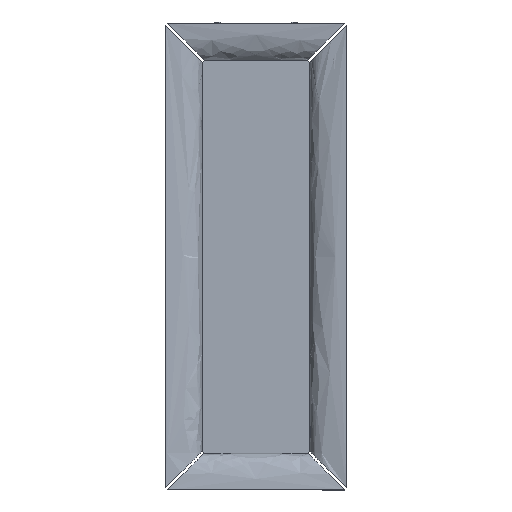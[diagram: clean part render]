
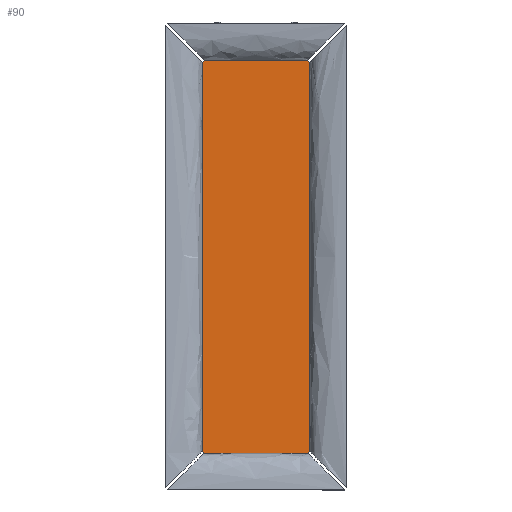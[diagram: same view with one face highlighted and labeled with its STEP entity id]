
A CAD part, top view. The second image highlights one B-rep face of the part: STEP entity #90.
In plain terms, the highlighted planar face has unit normal (0, 0, 1).
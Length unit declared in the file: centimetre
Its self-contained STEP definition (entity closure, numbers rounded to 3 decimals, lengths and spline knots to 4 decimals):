
#90=ADVANCED_FACE($,(#192),#1278,.T.);
#192=FACE_OUTER_BOUND($,#294,.T.);
#294=EDGE_LOOP($,(#572,#573,#574,#575,#576,#577,#578,#579));
#572=ORIENTED_EDGE($,*,*,#922,.T.);
#573=ORIENTED_EDGE($,*,*,#936,.T.);
#574=ORIENTED_EDGE($,*,*,#935,.T.);
#575=ORIENTED_EDGE($,*,*,#934,.T.);
#576=ORIENTED_EDGE($,*,*,#933,.T.);
#577=ORIENTED_EDGE($,*,*,#932,.T.);
#578=ORIENTED_EDGE($,*,*,#931,.T.);
#579=ORIENTED_EDGE($,*,*,#930,.T.);
#922=EDGE_CURVE($,#1119,#1133,#1408,.T.);
#930=EDGE_CURVE($,#1127,#1119,#1416,.T.);
#931=EDGE_CURVE($,#1128,#1127,#1417,.T.);
#932=EDGE_CURVE($,#1129,#1128,#1418,.T.);
#933=EDGE_CURVE($,#1130,#1129,#1419,.T.);
#934=EDGE_CURVE($,#1131,#1130,#1420,.T.);
#935=EDGE_CURVE($,#1132,#1131,#1421,.T.);
#936=EDGE_CURVE($,#1133,#1132,#1422,.T.);
#1119=VERTEX_POINT($,#3685);
#1127=VERTEX_POINT($,#3693);
#1128=VERTEX_POINT($,#3694);
#1129=VERTEX_POINT($,#3695);
#1130=VERTEX_POINT($,#3696);
#1131=VERTEX_POINT($,#3697);
#1132=VERTEX_POINT($,#3698);
#1133=VERTEX_POINT($,#3699);
#1278=PLANE($,#1650);
#1408=B_SPLINE_CURVE_WITH_KNOTS($,1,(#3630,#3631),.UNSPECIFIED.,.F.,.F.,
(2,2),(44.5029,45.7029),.UNSPECIFIED.);
#1416=B_SPLINE_CURVE_WITH_KNOTS($,1,(#3646,#3647),.UNSPECIFIED.,.F.,.F.,
(2,2),(417.2118,460.5147),.UNSPECIFIED.);
#1417=B_SPLINE_CURVE_WITH_KNOTS($,1,(#3648,#3649),.UNSPECIFIED.,.F.,.F.,
(2,2),(416.0118,417.2118),.UNSPECIFIED.);
#1418=B_SPLINE_CURVE_WITH_KNOTS($,1,(#3650,#3651),.UNSPECIFIED.,.F.,.F.,
(2,2),(253.7088,416.0118),.UNSPECIFIED.);
#1419=B_SPLINE_CURVE_WITH_KNOTS($,1,(#3652,#3653),.UNSPECIFIED.,.F.,.F.,
(2,2),(252.5088,253.7088),.UNSPECIFIED.);
#1420=B_SPLINE_CURVE_WITH_KNOTS($,1,(#3654,#3655),.UNSPECIFIED.,.F.,.F.,
(2,2),(209.2059,252.5088),.UNSPECIFIED.);
#1421=B_SPLINE_CURVE_WITH_KNOTS($,1,(#3656,#3657),.UNSPECIFIED.,.F.,.F.,
(2,2),(208.0059,209.2059),.UNSPECIFIED.);
#1422=B_SPLINE_CURVE_WITH_KNOTS($,1,(#3658,#3659),.UNSPECIFIED.,.F.,.F.,
(2,2),(45.7029,208.0059),.UNSPECIFIED.);
#1650=AXIS2_PLACEMENT_3D($,#3676,#1703,$);
#1703=DIRECTION($,(0.,0.,1.));
#3630=CARTESIAN_POINT($,(-41.0515,83.5,3.6));
#3631=CARTESIAN_POINT($,(-41.9,82.6515,3.6));
#3646=CARTESIAN_POINT($,(2.2515,83.5,3.6));
#3647=CARTESIAN_POINT($,(-41.0515,83.5,3.6));
#3648=CARTESIAN_POINT($,(3.1,82.6515,3.6));
#3649=CARTESIAN_POINT($,(2.2515,83.5,3.6));
#3650=CARTESIAN_POINT($,(3.1,-79.6515,3.6));
#3651=CARTESIAN_POINT($,(3.1,82.6515,3.6));
#3652=CARTESIAN_POINT($,(2.2515,-80.5,3.6));
#3653=CARTESIAN_POINT($,(3.1,-79.6515,3.6));
#3654=CARTESIAN_POINT($,(-41.0515,-80.5,3.6));
#3655=CARTESIAN_POINT($,(2.2515,-80.5,3.6));
#3656=CARTESIAN_POINT($,(-41.9,-79.6515,3.6));
#3657=CARTESIAN_POINT($,(-41.0515,-80.5,3.6));
#3658=CARTESIAN_POINT($,(-41.9,82.6515,3.6));
#3659=CARTESIAN_POINT($,(-41.9,-79.6515,3.6));
#3676=CARTESIAN_POINT($,(-41.9,-80.5,3.6));
#3685=CARTESIAN_POINT($,(-41.0515,83.5,3.6));
#3693=CARTESIAN_POINT($,(2.2515,83.5,3.6));
#3694=CARTESIAN_POINT($,(3.1,82.6515,3.6));
#3695=CARTESIAN_POINT($,(3.1,-79.6515,3.6));
#3696=CARTESIAN_POINT($,(2.2515,-80.5,3.6));
#3697=CARTESIAN_POINT($,(-41.0515,-80.5,3.6));
#3698=CARTESIAN_POINT($,(-41.9,-79.6515,3.6));
#3699=CARTESIAN_POINT($,(-41.9,82.6515,3.6));
